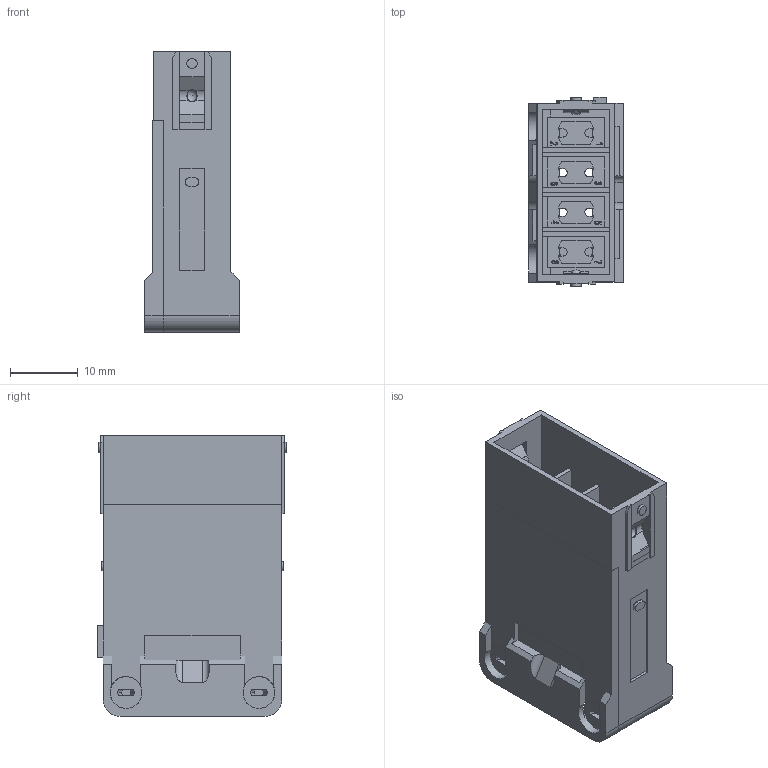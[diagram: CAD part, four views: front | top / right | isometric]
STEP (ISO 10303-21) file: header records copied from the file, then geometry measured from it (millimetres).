
FILE_DESCRIPTION(/* description */ (''),/* implementation_level */ '2;1');
FILE_NAME(/* name */ '100706518ugm000_e.stp',/* time_stamp */ '2022-03-12T04:01:43+01:00',/* author */ (''),/* organization */ (''),/* preprocessor_version */ 'ST-DEVELOPER v16.7',/* originating_system */ 'SIEMENS PLM Software NX 1911',/* authorisation */ '');
FILE_SCHEMA (('AUTOMOTIVE_DESIGN { 1 0 10303 214 3 1 1 1 }'));
Length unit declared in the file: millimetre
Products named in the file (1): 100706518ugm000_e
Bounding box: 13.9 x 28 x 41.41 mm (x, y, z)
Volume: 7310.7 mm3; surface area: 7470.2 mm2
Topology: 1 solids, 4 shells, 817 faces, 2593 edges, 2048 vertices
Faces by surface type: plane 593, cylinder 179, extrusion 29, revolution 8, sphere 6, cone 2
Full cylindrical faces by diameter (mm): 0.455 x1, 0.538 x1, 1.2 x2, 1.3 x2, 1.5 x2
Entity records: 33835 total; most frequent: CARTESIAN_POINT 7195, ORIENTED_EDGE 4618, DIRECTION 4422, EDGE_CURVE 2309, VECTOR 1968, LINE 1939, VERTEX_POINT 1527, AXIS2_PLACEMENT_3D 1223
